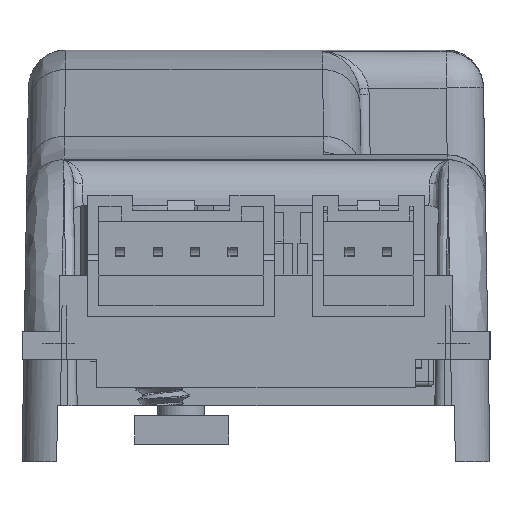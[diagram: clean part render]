
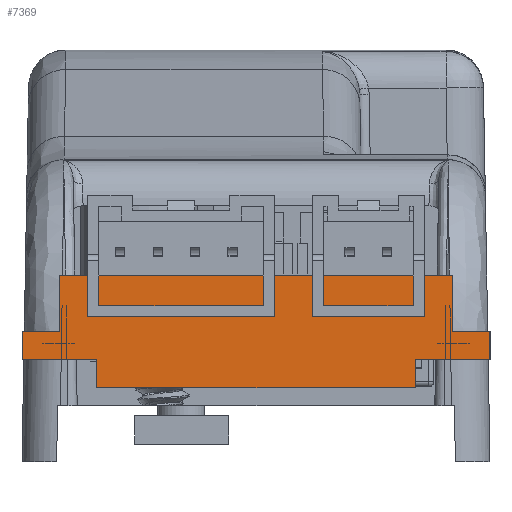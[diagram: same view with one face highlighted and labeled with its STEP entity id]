
A CAD part, left-side view. The second image highlights one B-rep face of the part: STEP entity #7369.
In plain terms, the highlighted planar face has unit normal (-1, 0, 0).
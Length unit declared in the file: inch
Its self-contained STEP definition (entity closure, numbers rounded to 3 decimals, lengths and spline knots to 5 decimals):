
#7015=CARTESIAN_POINT('',(-1.21799,0.49213,-0.03125));
#7016=VERTEX_POINT('',#7015);
#7017=CARTESIAN_POINT('',(-1.21799,0.41339,-0.03125));
#7018=VERTEX_POINT('',#7017);
#7019=CARTESIAN_POINT('',(-1.21799,0.49213,-0.03125));
#7020=DIRECTION('',(0.0,-1.0,0.0));
#7021=VECTOR('',#7020,0.07874);
#7022=LINE('',#7019,#7021);
#7023=EDGE_CURVE('',#7016,#7018,#7022,.T.);
#7046=CARTESIAN_POINT('',(-1.21799,0.41339,0.08686));
#7047=VERTEX_POINT('',#7046);
#7048=CARTESIAN_POINT('',(-1.21799,0.41339,-0.03125));
#7049=DIRECTION('',(0.0,0.0,1.0));
#7050=VECTOR('',#7049,0.11811);
#7051=LINE('',#7048,#7050);
#7052=EDGE_CURVE('',#7018,#7047,#7051,.T.);
#7070=CARTESIAN_POINT('',(-1.21799,-0.41339,0.08686));
#7071=VERTEX_POINT('',#7070);
#7072=CARTESIAN_POINT('',(-1.21799,0.41339,0.08686));
#7073=DIRECTION('',(0.0,-1.0,0.0));
#7074=VECTOR('',#7073,0.82677);
#7075=LINE('',#7072,#7074);
#7076=EDGE_CURVE('',#7047,#7071,#7075,.T.);
#7131=CARTESIAN_POINT('',(-1.21799,-0.41339,-0.03125));
#7132=VERTEX_POINT('',#7131);
#7133=CARTESIAN_POINT('',(-1.21799,-0.41339,0.08686));
#7134=DIRECTION('',(0.0,0.0,-1.0));
#7135=VECTOR('',#7134,0.11811);
#7136=LINE('',#7133,#7135);
#7137=EDGE_CURVE('',#7071,#7132,#7136,.T.);
#7155=CARTESIAN_POINT('',(-1.21799,-0.49213,-0.03125));
#7156=VERTEX_POINT('',#7155);
#7157=CARTESIAN_POINT('',(-1.21799,-0.41339,-0.03125));
#7158=DIRECTION('',(0.0,-1.0,0.0));
#7159=VECTOR('',#7158,0.07874);
#7160=LINE('',#7157,#7159);
#7161=EDGE_CURVE('',#7132,#7156,#7160,.T.);
#7179=CARTESIAN_POINT('',(-1.21799,-0.49213,-0.09031));
#7180=VERTEX_POINT('',#7179);
#7181=CARTESIAN_POINT('',(-1.21799,-0.49213,-0.03125));
#7182=DIRECTION('',(0.0,0.0,-1.0));
#7183=VECTOR('',#7182,0.05906);
#7184=LINE('',#7181,#7183);
#7185=EDGE_CURVE('',#7156,#7180,#7184,.T.);
#7203=CARTESIAN_POINT('',(-1.21799,-0.33465,-0.09031));
#7204=VERTEX_POINT('',#7203);
#7205=CARTESIAN_POINT('',(-1.21799,-0.49213,-0.09031));
#7206=DIRECTION('',(0.0,1.0,0.0));
#7207=VECTOR('',#7206,0.15748);
#7208=LINE('',#7205,#7207);
#7209=EDGE_CURVE('',#7180,#7204,#7208,.T.);
#7227=CARTESIAN_POINT('',(-1.21799,-0.33465,-0.14936));
#7228=VERTEX_POINT('',#7227);
#7229=CARTESIAN_POINT('',(-1.21799,-0.33465,-0.09031));
#7230=DIRECTION('',(0.0,0.0,-1.0));
#7231=VECTOR('',#7230,0.05906);
#7232=LINE('',#7229,#7231);
#7233=EDGE_CURVE('',#7204,#7228,#7232,.T.);
#7251=CARTESIAN_POINT('',(-1.21799,0.33465,-0.14936));
#7252=VERTEX_POINT('',#7251);
#7253=CARTESIAN_POINT('',(-1.21799,-0.33465,-0.14936));
#7254=DIRECTION('',(0.0,1.0,0.0));
#7255=VECTOR('',#7254,0.66929);
#7256=LINE('',#7253,#7255);
#7257=EDGE_CURVE('',#7228,#7252,#7256,.T.);
#7290=CARTESIAN_POINT('',(-1.21799,0.33465,-0.09031));
#7291=VERTEX_POINT('',#7290);
#7292=CARTESIAN_POINT('',(-1.21799,0.33465,-0.14936));
#7293=DIRECTION('',(0.0,0.0,1.0));
#7294=VECTOR('',#7293,0.05906);
#7295=LINE('',#7292,#7294);
#7296=EDGE_CURVE('',#7252,#7291,#7295,.T.);
#7314=CARTESIAN_POINT('',(-1.21799,0.49213,-0.09031));
#7315=VERTEX_POINT('',#7314);
#7316=CARTESIAN_POINT('',(-1.21799,0.33465,-0.09031));
#7317=DIRECTION('',(0.0,1.0,0.0));
#7318=VECTOR('',#7317,0.15748);
#7319=LINE('',#7316,#7318);
#7320=EDGE_CURVE('',#7291,#7315,#7319,.T.);
#7338=CARTESIAN_POINT('',(-1.21799,0.49213,-0.09031));
#7339=DIRECTION('',(0.0,0.0,1.0));
#7340=VECTOR('',#7339,0.05906);
#7341=LINE('',#7338,#7340);
#7342=EDGE_CURVE('',#7315,#7016,#7341,.T.);
#7350=CARTESIAN_POINT('',(-1.21799,0.,-0.03125));
#7351=DIRECTION('',(-1.0,0.0,0.0));
#7352=DIRECTION('',(0.0,-1.0,0.0));
#7353=AXIS2_PLACEMENT_3D('',#7350,#7351,#7352);
#7354=PLANE('',#7353);
#7355=ORIENTED_EDGE('',*,*,#7023,.F.);
#7356=ORIENTED_EDGE('',*,*,#7342,.F.);
#7357=ORIENTED_EDGE('',*,*,#7320,.F.);
#7358=ORIENTED_EDGE('',*,*,#7296,.F.);
#7359=ORIENTED_EDGE('',*,*,#7257,.F.);
#7360=ORIENTED_EDGE('',*,*,#7233,.F.);
#7361=ORIENTED_EDGE('',*,*,#7209,.F.);
#7362=ORIENTED_EDGE('',*,*,#7185,.F.);
#7363=ORIENTED_EDGE('',*,*,#7161,.F.);
#7364=ORIENTED_EDGE('',*,*,#7137,.F.);
#7365=ORIENTED_EDGE('',*,*,#7076,.F.);
#7366=ORIENTED_EDGE('',*,*,#7052,.F.);
#7367=EDGE_LOOP('',(#7355,#7356,#7357,#7358,#7359,#7360,#7361,#7362,#7363,#7364,#7365,#7366));
#7368=FACE_OUTER_BOUND('',#7367,.T.);
#7369=ADVANCED_FACE('',(#7368),#7354,.T.);
